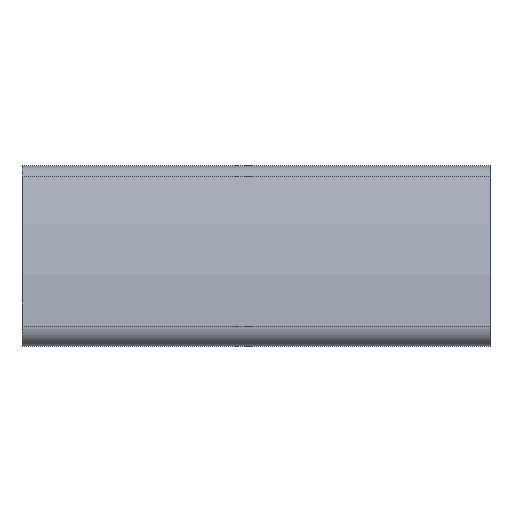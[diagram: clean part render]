
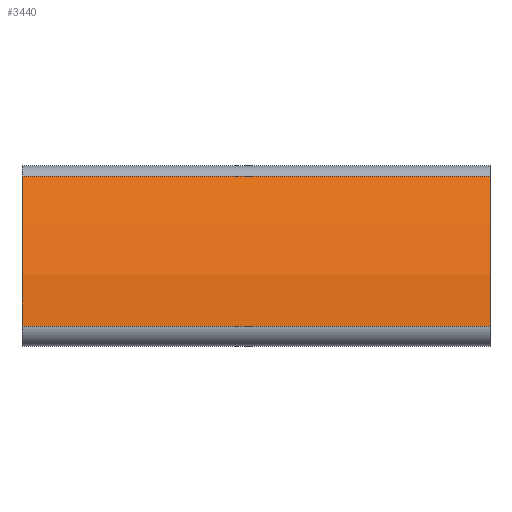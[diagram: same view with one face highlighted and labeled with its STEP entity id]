
A CAD part, left-side view. The second image highlights one B-rep face of the part: STEP entity #3440.
In plain terms, the highlighted cylindrical face has radius 80 mm (diameter 160 mm), a partial arc.
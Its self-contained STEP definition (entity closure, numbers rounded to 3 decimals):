
#42 = CIRCLE ( 'NONE', #2166, 80. ) ;
#192 = ORIENTED_EDGE ( 'NONE', *, *, #610, .T. ) ;
#518 = ORIENTED_EDGE ( 'NONE', *, *, #1377, .T. ) ;
#552 = CARTESIAN_POINT ( 'NONE',  ( -21.934, 50., -11.319 ) ) ;
#610 = EDGE_CURVE ( 'NONE', #3693, #3338, #2073, .T. ) ;
#724 = AXIS2_PLACEMENT_3D ( 'NONE', #1458, #3907, #2369 ) ;
#810 = DIRECTION ( 'NONE',  ( 0., 0., 1. ) ) ;
#995 = CARTESIAN_POINT ( 'NONE',  ( -13.336, 50., 20.769 ) ) ;
#1014 = EDGE_CURVE ( 'NONE', #3693, #3038, #42, .T. ) ;
#1114 = VECTOR ( 'NONE', #3877, 1000. ) ;
#1377 = EDGE_CURVE ( 'NONE', #3338, #1381, #2469, .T. ) ;
#1381 = VERTEX_POINT ( 'NONE', #2701 ) ;
#1458 = CARTESIAN_POINT ( 'NONE',  ( 57.956, -50., -15.529 ) ) ;
#1465 = EDGE_CURVE ( 'NONE', #3038, #1381, #3471, .T. ) ;
#1551 = CYLINDRICAL_SURFACE ( 'NONE', #3647, 80. ) ;
#1561 = EDGE_LOOP ( 'NONE', ( #518, #3134, #2212, #192 ) ) ;
#1595 = CARTESIAN_POINT ( 'NONE',  ( 57.956, 50., -15.529 ) ) ;
#1734 = CARTESIAN_POINT ( 'NONE',  ( -21.934, 50., -11.319 ) ) ;
#2073 = LINE ( 'NONE', #552, #2135 ) ;
#2135 = VECTOR ( 'NONE', #2710, 1000. ) ;
#2166 = AXIS2_PLACEMENT_3D ( 'NONE', #2724, #3606, #810 ) ;
#2212 = ORIENTED_EDGE ( 'NONE', *, *, #1014, .F. ) ;
#2369 = DIRECTION ( 'NONE',  ( 0., 0., 1. ) ) ;
#2469 = CIRCLE ( 'NONE', #724, 80. ) ;
#2701 = CARTESIAN_POINT ( 'NONE',  ( -13.336, -50., 20.769 ) ) ;
#2710 = DIRECTION ( 'NONE',  ( 0., -1., 0. ) ) ;
#2724 = CARTESIAN_POINT ( 'NONE',  ( 57.956, 50., -15.529 ) ) ;
#2859 = FACE_OUTER_BOUND ( 'NONE', #1561, .T. ) ;
#3038 = VERTEX_POINT ( 'NONE', #995 ) ;
#3134 = ORIENTED_EDGE ( 'NONE', *, *, #1465, .F. ) ;
#3338 = VERTEX_POINT ( 'NONE', #3341 ) ;
#3341 = CARTESIAN_POINT ( 'NONE',  ( -21.934, -50., -11.319 ) ) ;
#3436 = DIRECTION ( 'NONE',  ( 0., 0., -1. ) ) ;
#3440 = ADVANCED_FACE ( 'NONE', ( #2859 ), #1551, .T. ) ;
#3457 = DIRECTION ( 'NONE',  ( 0., -1., 0. ) ) ;
#3471 = LINE ( 'NONE', #3835, #1114 ) ;
#3606 = DIRECTION ( 'NONE',  ( 0., 1., 0. ) ) ;
#3647 = AXIS2_PLACEMENT_3D ( 'NONE', #1595, #3457, #3436 ) ;
#3693 = VERTEX_POINT ( 'NONE', #1734 ) ;
#3835 = CARTESIAN_POINT ( 'NONE',  ( -13.336, 50., 20.769 ) ) ;
#3877 = DIRECTION ( 'NONE',  ( 0., -1., 0. ) ) ;
#3907 = DIRECTION ( 'NONE',  ( 0., 1., 0. ) ) ;
